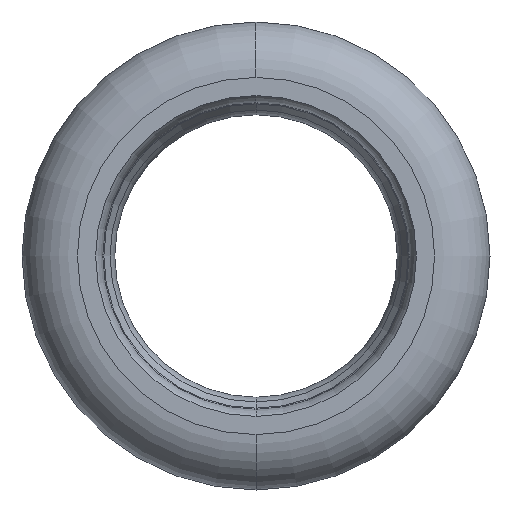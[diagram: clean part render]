
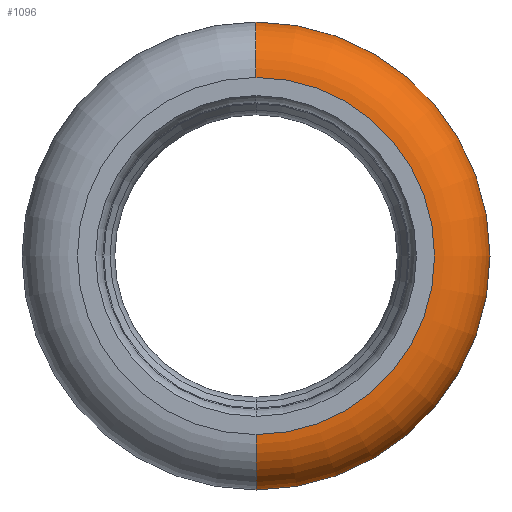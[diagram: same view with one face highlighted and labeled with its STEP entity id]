
A CAD part, left-side view. The second image highlights one B-rep face of the part: STEP entity #1096.
In plain terms, the highlighted toroidal (fillet/blend) face has major radius 8.85 mm and minor radius 2.75 mm.
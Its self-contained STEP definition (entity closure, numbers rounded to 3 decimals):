
#36 = EDGE_CURVE ( 'NONE', #690, #883, #1040, .T. ) ;
#71 = AXIS2_PLACEMENT_3D ( 'NONE', #899, #1682, #884 ) ;
#109 = ORIENTED_EDGE ( 'NONE', *, *, #36, .F. ) ;
#309 = EDGE_CURVE ( 'NONE', #690, #1570, #440, .T. ) ;
#347 = EDGE_LOOP ( 'NONE', ( #1685, #1384, #1983, #109 ) ) ;
#378 = EDGE_CURVE ( 'NONE', #883, #987, #1655, .T. ) ;
#393 = AXIS2_PLACEMENT_3D ( 'NONE', #1025, #559, #716 ) ;
#440 = CIRCLE ( 'NONE', #900, 8.85 ) ;
#471 = CARTESIAN_POINT ( 'NONE',  ( -24., 0., 8.85 ) ) ;
#512 = EDGE_CURVE ( 'NONE', #1570, #987, #703, .T. ) ;
#520 = TOROIDAL_SURFACE ( 'NONE', #602, 8.85, 2.75 ) ;
#541 = CARTESIAN_POINT ( 'NONE',  ( -24., 0., -8.85 ) ) ;
#559 = DIRECTION ( 'NONE',  ( 0., 1., 0. ) ) ;
#602 = AXIS2_PLACEMENT_3D ( 'NONE', #901, #1838, #753 ) ;
#616 = CARTESIAN_POINT ( 'NONE',  ( -21.25, 0., -8.85 ) ) ;
#630 = DIRECTION ( 'NONE',  ( 0., 0., -1. ) ) ;
#690 = VERTEX_POINT ( 'NONE', #471 ) ;
#703 = CIRCLE ( 'NONE', #1768, 2.75 ) ;
#716 = DIRECTION ( 'NONE',  ( 0., 0., 1. ) ) ;
#753 = DIRECTION ( 'NONE',  ( 0., 0., 1. ) ) ;
#883 = VERTEX_POINT ( 'NONE', #1131 ) ;
#884 = DIRECTION ( 'NONE',  ( 0., 0., 1. ) ) ;
#899 = CARTESIAN_POINT ( 'NONE',  ( -19.557, 0., 0. ) ) ;
#900 = AXIS2_PLACEMENT_3D ( 'NONE', #1937, #1658, #1009 ) ;
#901 = CARTESIAN_POINT ( 'NONE',  ( -21.25, 0., 0. ) ) ;
#930 = DIRECTION ( 'NONE',  ( 0., -1., 0. ) ) ;
#987 = VERTEX_POINT ( 'NONE', #1163 ) ;
#1009 = DIRECTION ( 'NONE',  ( 0., 0., 1. ) ) ;
#1025 = CARTESIAN_POINT ( 'NONE',  ( -21.25, 0., 8.85 ) ) ;
#1040 = CIRCLE ( 'NONE', #393, 2.75 ) ;
#1096 = ADVANCED_FACE ( 'NONE', ( #1657 ), #520, .T. ) ;
#1131 = CARTESIAN_POINT ( 'NONE',  ( -19.557, 0., 11.017 ) ) ;
#1163 = CARTESIAN_POINT ( 'NONE',  ( -19.557, 0., -11.017 ) ) ;
#1384 = ORIENTED_EDGE ( 'NONE', *, *, #512, .T. ) ;
#1570 = VERTEX_POINT ( 'NONE', #541 ) ;
#1655 = CIRCLE ( 'NONE', #71, 11.017 ) ;
#1657 = FACE_OUTER_BOUND ( 'NONE', #347, .T. ) ;
#1658 = DIRECTION ( 'NONE',  ( 1., 0., 0. ) ) ;
#1682 = DIRECTION ( 'NONE',  ( 1., 0., 0. ) ) ;
#1685 = ORIENTED_EDGE ( 'NONE', *, *, #309, .T. ) ;
#1768 = AXIS2_PLACEMENT_3D ( 'NONE', #616, #930, #630 ) ;
#1838 = DIRECTION ( 'NONE',  ( 1., 0., 0. ) ) ;
#1937 = CARTESIAN_POINT ( 'NONE',  ( -24., 0., 0. ) ) ;
#1983 = ORIENTED_EDGE ( 'NONE', *, *, #378, .F. ) ;
